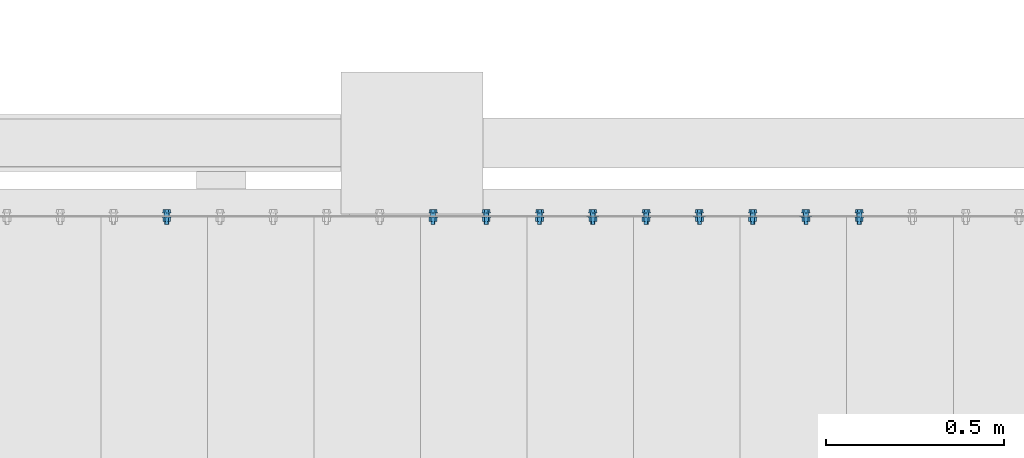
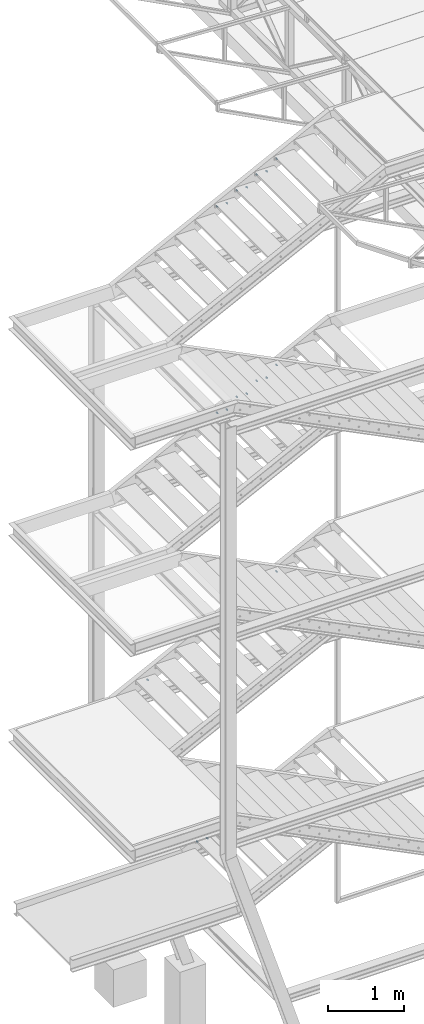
# One storey, part 112 of 132: 18 mechanical fasteners, 11 elements without a shape of their own.
"""IFC2X3 building model written with IfcOpenShell, lengths in millimetres."""

from ifc_helpers import new_model, si_unit, frame, frame_2d, origin_with_axes, origin_2d_with_axis, place, context, subcontext, project, spatial, polyline, circle_curve, parameter, trimmed, segment, composite_curve, circle, outline, extrude, source, transform, mapped, material, type_object, element, aggregate, save


model = new_model("IFC2X3")

# Units and contexts
model_context = context("Model", 3, precision=1e-05, world=origin_with_axes())
body_context = subcontext(model_context, "Body", "Model", "MODEL_VIEW")
ifc_project = project(units=[si_unit("LENGTHUNIT", "METRE", prefix="MILLI"), si_unit("AREAUNIT", "SQUARE_METRE"), si_unit("VOLUMEUNIT", "CUBIC_METRE"), si_unit("MASSUNIT", "GRAM", prefix="KILO"), si_unit("TIMEUNIT", "SECOND"), si_unit("PLANEANGLEUNIT", "RADIAN"), si_unit("SOLIDANGLEUNIT", "STERADIAN"), si_unit("THERMODYNAMICTEMPERATUREUNIT", "DEGREE_CELSIUS"), si_unit("LUMINOUSINTENSITYUNIT", "LUMEN")], contexts=[model_context])

# Site, building, storey
site_placement = place(None, origin_with_axes())
site = spatial("IfcSite", under=ifc_project, at=site_placement, Name="Budowa", CompositionType="ELEMENT")
building_placement = place(site_placement, origin_with_axes())
building = spatial("IfcBuilding", under=site, at=building_placement, Name="Undefined", CompositionType="ELEMENT")
storey_placement = place(building_placement, origin_with_axes())
storey = spatial("IfcBuildingStorey", under=building, at=storey_placement, Name="Undefined", CompositionType="ELEMENT", Elevation=0.0)

# Assembly, mechanical fastener
assembly_1_placement = place(storey_placement, origin_with_axes())
assembly_1 = element("IfcElementAssembly", 1, at=assembly_1_placement, inside=storey, Name="Steel Assembly", AssemblyPlace="NOTDEFINED", PredefinedType="RIGID_FRAME")
ifc_material = material(Name="Undefined")
discrete_accessory_type = type_object("IfcDiscreteAccessoryType", Name="Bolt assembly")
shared_shape_1 = source(origin_with_axes(), body_context, "Body", "SweptSolid", [
    extrude(circle(Radius=7.5, at=origin_2d_with_axis()), frame((0.0, -8.40000000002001, 0.0), z_axis=(0.0, 1.0, 0.0), x_axis=(1.0, 0.0, 0.0)), (0.0, 0.0, 1.0), 8.5),
    extrude(circle(Radius=7.5, at=origin_2d_with_axis()), frame((0.0, -0.1, 0.0), z_axis=(0.0, 1.0, 0.0), x_axis=(1.0, 0.0, 0.0)), (0.0, 0.0, 1.0), 3.1),
    extrude(outline(polyline([(10.39230484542, 0.0), (5.19615242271, 9.00000000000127), (-5.19615242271, 9.00000000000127), (-10.39230484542, 0.0), (-5.19615242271, -9.00000000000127), (5.19615242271, -9.00000000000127), (10.39230484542, 0.0)])), frame((0.0, -18.50000000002, 0.0), z_axis=(0.0, 1.0, 0.0), x_axis=(1.0, 0.0, 0.0)), (0.0, 0.0, 1.0), 7.5),
    extrude(circle(Radius=6.0, at=origin_2d_with_axis()), frame((0.0, -11.00000000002, 0.0), z_axis=(0.0, 1.0, 0.0), x_axis=(1.0, 0.0, 0.0)), (0.0, 0.0, 1.0), 35.0),
    extrude(circle(Radius=12.0, at=origin_2d_with_axis()), frame((0.0, -11.00000000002, 0.0), z_axis=(0.0, 1.0, 0.0), x_axis=(1.0, 0.0, 0.0)), (0.0, 0.0, 1.0), 2.5),
    extrude(circle(Radius=12.0, at=origin_2d_with_axis()), frame((0.0, 3.0, 0.0), z_axis=(0.0, 1.0, 0.0), x_axis=(1.0, 0.0, 0.0)), (0.0, 0.0, 1.0), 2.5),
    extrude(outline(polyline([(10.96965511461, 0.0), (5.484827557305, 9.50000000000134), (-5.484827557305, 9.50000000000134), (-10.96965511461, 0.0), (-5.484827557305, -9.50000000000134), (5.484827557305, -9.50000000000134), (10.96965511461, 0.0)])), frame((0.0, 5.5, 0.0), z_axis=(0.0, 1.0, 0.0), x_axis=(1.0, 0.0, 0.0)), (0.0, 0.0, 1.0), 10.0),
])
mechanical_fastener_1_placement = place(assembly_1_placement, frame((-1720.0000000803, 10925.0000000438, 13549.9999999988), z_axis=(0.0, 0.0, -1.0), x_axis=(1.0, 0.0, 0.0)))
mechanical_fastener_1 = element("IfcMechanicalFastener", 2, at=mechanical_fastener_1_placement, type_object=discrete_accessory_type, material=ifc_material, Name="Bolt assembly", NominalDiameter=12.0, NominalLength=35.0, context=body_context, shape_type="MappedRepresentation", body=[
    mapped(shared_shape_1, transform((35.0, 0.0, 25.0))),
])
aggregate(assembly_1, [mechanical_fastener_1])

assembly_2_placement = place(storey_placement, origin_with_axes())
assembly_2 = element("IfcElementAssembly", 3, at=assembly_2_placement, inside=storey, Name="Steel Assembly", AssemblyPlace="NOTDEFINED", PredefinedType="RIGID_FRAME")
mechanical_fastener_2_placement = place(assembly_2_placement, frame((-2020.00000008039, 10925.0000000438, 13399.9999999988), z_axis=(0.0, 0.0, -1.0), x_axis=(1.0, 0.0, 0.0)))
mechanical_fastener_2 = element("IfcMechanicalFastener", 4, at=mechanical_fastener_2_placement, type_object=discrete_accessory_type, material=ifc_material, Name="Bolt assembly", NominalDiameter=12.0, NominalLength=35.0, context=body_context, shape_type="MappedRepresentation", body=[
    mapped(shared_shape_1, transform((35.0, 0.0, 25.0))),
])

assembly_3_placement = place(storey_placement, origin_with_axes())
assembly_3 = element("IfcElementAssembly", 5, at=assembly_3_placement, inside=storey, Name="Steel Assembly", AssemblyPlace="NOTDEFINED", PredefinedType="RIGID_FRAME")
mechanical_fastener_3_placement = place(assembly_3_placement, frame((-2320.00000008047, 10925.0000000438, 13249.9999999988), z_axis=(0.0, 0.0, -1.0), x_axis=(1.0, 0.0, 0.0)))
mechanical_fastener_3 = element("IfcMechanicalFastener", 6, at=mechanical_fastener_3_placement, type_object=discrete_accessory_type, material=ifc_material, Name="Bolt assembly", NominalDiameter=12.0, NominalLength=35.0, context=body_context, shape_type="MappedRepresentation", body=[
    mapped(shared_shape_1, transform((35.0, 0.0, 25.0))),
])

assembly_4_placement = place(storey_placement, origin_with_axes())
assembly_4 = element("IfcElementAssembly", 7, at=assembly_4_placement, inside=storey, Name="Steel Assembly", AssemblyPlace="NOTDEFINED", PredefinedType="RIGID_FRAME")
mechanical_fastener_4_placement = place(assembly_4_placement, frame((-2620.00000008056, 10925.0000000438, 13099.9999999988), z_axis=(0.0, 0.0, -1.0), x_axis=(1.0, 0.0, 0.0)))
mechanical_fastener_4 = element("IfcMechanicalFastener", 8, at=mechanical_fastener_4_placement, type_object=discrete_accessory_type, material=ifc_material, Name="Bolt assembly", NominalDiameter=12.0, NominalLength=35.0, context=body_context, shape_type="MappedRepresentation", body=[
    mapped(shared_shape_1, transform((35.0, 0.0, 25.0))),
])

assembly_5_placement = place(storey_placement, origin_with_axes())
assembly_5 = element("IfcElementAssembly", 9, at=assembly_5_placement, inside=storey, Name="Steel Assembly", AssemblyPlace="NOTDEFINED", PredefinedType="RIGID_FRAME")
mechanical_fastener_5_placement = place(assembly_5_placement, frame((-1720.0000000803, 10925.0000000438, 10249.9999999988), z_axis=(0.0, 0.0, -1.0), x_axis=(1.0, 0.0, 0.0)))
mechanical_fastener_5 = element("IfcMechanicalFastener", 10, at=mechanical_fastener_5_placement, type_object=discrete_accessory_type, material=ifc_material, Name="Bolt assembly", NominalDiameter=12.0, NominalLength=35.0, context=body_context, shape_type="MappedRepresentation", body=[
    mapped(shared_shape_1, transform((35.0, 0.0, 25.0))),
])
aggregate(assembly_5, [mechanical_fastener_5])

assembly_6_placement = place(storey_placement, origin_with_axes())
assembly_6 = element("IfcElementAssembly", 11, at=assembly_6_placement, inside=storey, Name="Steel Assembly", AssemblyPlace="NOTDEFINED", PredefinedType="RIGID_FRAME")
mechanical_fastener_6_placement = place(assembly_6_placement, frame((-2020.00000008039, 10925.0000000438, 10099.9999999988), z_axis=(0.0, 0.0, -1.0), x_axis=(1.0, 0.0, 0.0)))
mechanical_fastener_6 = element("IfcMechanicalFastener", 12, at=mechanical_fastener_6_placement, type_object=discrete_accessory_type, material=ifc_material, Name="Bolt assembly", NominalDiameter=12.0, NominalLength=35.0, context=body_context, shape_type="MappedRepresentation", body=[
    mapped(shared_shape_1, transform((35.0, 0.0, 25.0))),
])

assembly_7_placement = place(storey_placement, origin_with_axes())
assembly_7 = element("IfcElementAssembly", 13, at=assembly_7_placement, inside=storey, Name="Steel Assembly", AssemblyPlace="NOTDEFINED", PredefinedType="RIGID_FRAME")
mechanical_fastener_7_placement = place(assembly_7_placement, frame((-2320.00000008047, 10925.0000000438, 9949.99999999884), z_axis=(0.0, 0.0, -1.0), x_axis=(1.0, 0.0, 0.0)))
mechanical_fastener_7 = element("IfcMechanicalFastener", 14, at=mechanical_fastener_7_placement, type_object=discrete_accessory_type, material=ifc_material, Name="Bolt assembly", NominalDiameter=12.0, NominalLength=35.0, context=body_context, shape_type="MappedRepresentation", body=[
    mapped(shared_shape_1, transform((35.0, 0.0, 25.0))),
])

assembly_8_placement = place(storey_placement, origin_with_axes())
assembly_8 = element("IfcElementAssembly", 15, at=assembly_8_placement, inside=storey, Name="Steel Assembly", AssemblyPlace="NOTDEFINED", PredefinedType="RIGID_FRAME")
mechanical_fastener_8_placement = place(assembly_8_placement, frame((-2620.00000008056, 10925.0000000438, 9799.99999999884), z_axis=(0.0, 0.0, -1.0), x_axis=(1.0, 0.0, 0.0)))
mechanical_fastener_8 = element("IfcMechanicalFastener", 16, at=mechanical_fastener_8_placement, type_object=discrete_accessory_type, material=ifc_material, Name="Bolt assembly", NominalDiameter=12.0, NominalLength=35.0, context=body_context, shape_type="MappedRepresentation", body=[
    mapped(shared_shape_1, transform((35.0, 0.0, 25.0))),
])

assembly_9_placement = place(storey_placement, origin_with_axes())
assembly_9 = element("IfcElementAssembly", 17, at=assembly_9_placement, inside=storey, Name="Steel Assembly", AssemblyPlace="NOTDEFINED", PredefinedType="RIGID_FRAME")
mechanical_fastener_9_placement = place(assembly_9_placement, frame((-1720.00000008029, 10925.0000000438, 6949.99999999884), z_axis=(0.0, 0.0, -1.0), x_axis=(1.0, 0.0, 0.0)))
mechanical_fastener_9 = element("IfcMechanicalFastener", 18, at=mechanical_fastener_9_placement, type_object=discrete_accessory_type, material=ifc_material, Name="Bolt assembly", NominalDiameter=12.0, NominalLength=35.0, context=body_context, shape_type="MappedRepresentation", body=[
    mapped(shared_shape_1, transform((35.0, 0.0, 25.0))),
])
aggregate(assembly_9, [mechanical_fastener_9])

assembly_10_placement = place(storey_placement, origin_with_axes())
assembly_10 = element("IfcElementAssembly", 19, at=assembly_10_placement, inside=storey, Name="Steel Assembly", AssemblyPlace="NOTDEFINED", PredefinedType="RIGID_FRAME")
mechanical_fastener_10_placement = place(assembly_10_placement, frame((-2920.00000008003, 10925.000000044, 3049.99999999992), z_axis=(0.0, 0.0, -1.0), x_axis=(1.0, 0.0, 0.0)))
mechanical_fastener_10 = element("IfcMechanicalFastener", 20, at=mechanical_fastener_10_placement, type_object=discrete_accessory_type, material=ifc_material, Name="Bolt assembly", NominalDiameter=12.0, NominalLength=35.0, context=body_context, shape_type="MappedRepresentation", body=[
    mapped(shared_shape_1, transform((35.0, 0.0, 25.0))),
])

# Mechanical fastener
shared_shape_2 = source(origin_with_axes(), body_context, "Body", "SweptSolid", [
    extrude(circle(Radius=7.5, at=origin_2d_with_axis()), frame((0.0, -8.40000000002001, 0.0), z_axis=(0.0, 1.0, 0.0), x_axis=(1.0, 0.0, 0.0)), (0.0, 0.0, 1.0), 8.5),
    extrude(outline(composite_curve([segment(polyline([(-10.0, 7.5), (10.0, 7.5)]), True, "CONTINUOUS"), segment(trimmed(circle_curve(frame_2d((10.0, 0.0), x_axis=(0.0, 1.0)), 7.5), [parameter(0.0)], [parameter(3.14159265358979)], False, "PARAMETER"), True, "CONTINUOUS"), segment(polyline([(10.0, -7.5), (-10.0, -7.5)]), True, "CONTINUOUS"), segment(trimmed(circle_curve(frame_2d((-10.0, 0.0), x_axis=(0.0, -1.0)), 7.5), [parameter(0.0)], [parameter(3.14159265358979)], False, "PARAMETER"), True, "DISCONTINUOUS")], self_intersect=False)), frame((0.0, -0.1, 0.0), z_axis=(0.0, 1.0, 0.0), x_axis=(1.0, 0.0, 0.0)), (0.0, 0.0, 1.0), 3.1),
    extrude(outline(polyline([(10.39230484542, 0.0), (5.19615242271, 9.00000000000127), (-5.19615242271, 9.00000000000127), (-10.39230484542, 0.0), (-5.19615242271, -9.00000000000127), (5.19615242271, -9.00000000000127), (10.39230484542, 0.0)])), frame((0.0, -18.50000000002, 0.0), z_axis=(0.0, 1.0, 0.0), x_axis=(1.0, 0.0, 0.0)), (0.0, 0.0, 1.0), 7.5),
    extrude(circle(Radius=6.0, at=origin_2d_with_axis()), frame((0.0, -11.00000000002, 0.0), z_axis=(0.0, 1.0, 0.0), x_axis=(1.0, 0.0, 0.0)), (0.0, 0.0, 1.0), 35.0),
    extrude(circle(Radius=12.0, at=origin_2d_with_axis()), frame((0.0, -11.00000000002, 0.0), z_axis=(0.0, 1.0, 0.0), x_axis=(1.0, 0.0, 0.0)), (0.0, 0.0, 1.0), 2.5),
    extrude(circle(Radius=12.0, at=origin_2d_with_axis()), frame((0.0, 3.0, 0.0), z_axis=(0.0, 1.0, 0.0), x_axis=(1.0, 0.0, 0.0)), (0.0, 0.0, 1.0), 2.5),
    extrude(outline(polyline([(10.96965511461, 0.0), (5.484827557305, 9.50000000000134), (-5.484827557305, 9.50000000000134), (-10.96965511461, 0.0), (-5.484827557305, -9.50000000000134), (5.484827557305, -9.50000000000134), (10.96965511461, 0.0)])), frame((0.0, 5.5, 0.0), z_axis=(0.0, 1.0, 0.0), x_axis=(1.0, 0.0, 0.0)), (0.0, 0.0, 1.0), 10.0),
])
mechanical_fastener_11_placement = place(assembly_2_placement, frame((-2020.00000008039, 10925.0000000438, 13399.9999999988), z_axis=(0.0, 0.0, -1.0), x_axis=(1.0, 0.0, 0.0)))
mechanical_fastener_11 = element("IfcMechanicalFastener", 21, at=mechanical_fastener_11_placement, type_object=discrete_accessory_type, material=ifc_material, Name="Bolt assembly", NominalDiameter=12.0, NominalLength=35.0, context=body_context, shape_type="MappedRepresentation", body=[
    mapped(shared_shape_2, transform((185.0, 0.0, 25.0))),
])

aggregate(assembly_2, [mechanical_fastener_11, mechanical_fastener_2])

shared_shape_3 = source(origin_with_axes(), body_context, "Body", "SweptSolid", [
    extrude(circle(Radius=7.5, at=origin_2d_with_axis()), frame((0.0, -8.40000000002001, 0.0), z_axis=(0.0, 1.0, 0.0), x_axis=(1.0, 0.0, 0.0)), (0.0, 0.0, 1.0), 8.5),
    extrude(outline(composite_curve([segment(polyline([(-10.0, 7.5), (10.0, 7.5)]), True, "CONTINUOUS"), segment(trimmed(circle_curve(frame_2d((10.0, 0.0), x_axis=(0.0, 1.0)), 7.5), [parameter(0.0)], [parameter(3.14159265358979)], False, "PARAMETER"), True, "CONTINUOUS"), segment(polyline([(10.0, -7.5), (-10.0, -7.5)]), True, "CONTINUOUS"), segment(trimmed(circle_curve(frame_2d((-10.0, 0.0), x_axis=(0.0, -1.0)), 7.5), [parameter(0.0)], [parameter(3.14159265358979)], False, "PARAMETER"), True, "DISCONTINUOUS")], self_intersect=False)), frame((0.0, -0.1, 0.0), z_axis=(0.0, 1.0, 0.0), x_axis=(1.0, 0.0, 0.0)), (0.0, 0.0, 1.0), 3.1),
    extrude(outline(polyline([(10.39230484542, 0.0), (5.19615242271, 9.00000000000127), (-5.19615242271, 9.00000000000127), (-10.39230484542, 0.0), (-5.19615242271, -9.00000000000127), (5.19615242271, -9.00000000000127), (10.39230484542, 0.0)])), frame((0.0, -18.50000000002, 0.0), z_axis=(0.0, 1.0, 0.0), x_axis=(1.0, 0.0, 0.0)), (0.0, 0.0, 1.0), 7.5),
    extrude(circle(Radius=6.0, at=origin_2d_with_axis()), frame((0.0, -11.00000000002, 0.0), z_axis=(0.0, 1.0, 0.0), x_axis=(1.0, 0.0, 0.0)), (0.0, 0.0, 1.0), 35.0),
    extrude(circle(Radius=12.0, at=origin_2d_with_axis()), frame((0.0, -11.00000000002, 0.0), z_axis=(0.0, 1.0, 0.0), x_axis=(1.0, 0.0, 0.0)), (0.0, 0.0, 1.0), 2.5),
    extrude(circle(Radius=12.0, at=origin_2d_with_axis()), frame((0.0, 3.0, 0.0), z_axis=(0.0, 1.0, 0.0), x_axis=(1.0, 0.0, 0.0)), (0.0, 0.0, 1.0), 2.5),
    extrude(outline(polyline([(10.96965511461, 0.0), (5.484827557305, 9.50000000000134), (-5.484827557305, 9.50000000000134), (-10.96965511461, 0.0), (-5.484827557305, -9.50000000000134), (5.484827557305, -9.50000000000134), (10.96965511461, 0.0)])), frame((0.0, 5.5, 0.0), z_axis=(0.0, 1.0, 0.0), x_axis=(1.0, 0.0, 0.0)), (0.0, 0.0, 1.0), 10.0),
])
mechanical_fastener_12_placement = place(assembly_3_placement, frame((-2320.00000008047, 10925.0000000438, 13249.9999999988), z_axis=(0.0, 0.0, -1.0), x_axis=(1.0, 0.0, 0.0)))
mechanical_fastener_12 = element("IfcMechanicalFastener", 22, at=mechanical_fastener_12_placement, type_object=discrete_accessory_type, material=ifc_material, Name="Bolt assembly", NominalDiameter=12.0, NominalLength=35.0, context=body_context, shape_type="MappedRepresentation", body=[
    mapped(shared_shape_3, transform((185.0, 0.0, 25.0))),
])

aggregate(assembly_3, [mechanical_fastener_12, mechanical_fastener_3])

shared_shape_4 = source(origin_with_axes(), body_context, "Body", "SweptSolid", [
    extrude(circle(Radius=7.5, at=origin_2d_with_axis()), frame((0.0, -8.40000000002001, 0.0), z_axis=(0.0, 1.0, 0.0), x_axis=(1.0, 0.0, 0.0)), (0.0, 0.0, 1.0), 8.5),
    extrude(outline(composite_curve([segment(polyline([(-10.0, 7.5), (10.0, 7.5)]), True, "CONTINUOUS"), segment(trimmed(circle_curve(frame_2d((10.0, 0.0), x_axis=(0.0, 1.0)), 7.5), [parameter(0.0)], [parameter(3.14159265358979)], False, "PARAMETER"), True, "CONTINUOUS"), segment(polyline([(10.0, -7.5), (-10.0, -7.5)]), True, "CONTINUOUS"), segment(trimmed(circle_curve(frame_2d((-10.0, 0.0), x_axis=(0.0, -1.0)), 7.5), [parameter(0.0)], [parameter(3.14159265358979)], False, "PARAMETER"), True, "DISCONTINUOUS")], self_intersect=False)), frame((0.0, -0.1, 0.0), z_axis=(0.0, 1.0, 0.0), x_axis=(1.0, 0.0, 0.0)), (0.0, 0.0, 1.0), 3.1),
    extrude(outline(polyline([(10.39230484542, 0.0), (5.19615242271, 9.00000000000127), (-5.19615242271, 9.00000000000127), (-10.39230484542, 0.0), (-5.19615242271, -9.00000000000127), (5.19615242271, -9.00000000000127), (10.39230484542, 0.0)])), frame((0.0, -18.50000000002, 0.0), z_axis=(0.0, 1.0, 0.0), x_axis=(1.0, 0.0, 0.0)), (0.0, 0.0, 1.0), 7.5),
    extrude(circle(Radius=6.0, at=origin_2d_with_axis()), frame((0.0, -11.00000000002, 0.0), z_axis=(0.0, 1.0, 0.0), x_axis=(1.0, 0.0, 0.0)), (0.0, 0.0, 1.0), 35.0),
    extrude(circle(Radius=12.0, at=origin_2d_with_axis()), frame((0.0, -11.00000000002, 0.0), z_axis=(0.0, 1.0, 0.0), x_axis=(1.0, 0.0, 0.0)), (0.0, 0.0, 1.0), 2.5),
    extrude(circle(Radius=12.0, at=origin_2d_with_axis()), frame((0.0, 3.0, 0.0), z_axis=(0.0, 1.0, 0.0), x_axis=(1.0, 0.0, 0.0)), (0.0, 0.0, 1.0), 2.5),
    extrude(outline(polyline([(10.96965511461, 0.0), (5.484827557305, 9.50000000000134), (-5.484827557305, 9.50000000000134), (-10.96965511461, 0.0), (-5.484827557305, -9.50000000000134), (5.484827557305, -9.50000000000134), (10.96965511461, 0.0)])), frame((0.0, 5.5, 0.0), z_axis=(0.0, 1.0, 0.0), x_axis=(1.0, 0.0, 0.0)), (0.0, 0.0, 1.0), 10.0),
])
mechanical_fastener_13_placement = place(assembly_4_placement, frame((-2620.00000008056, 10925.0000000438, 13099.9999999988), z_axis=(0.0, 0.0, -1.0), x_axis=(1.0, 0.0, 0.0)))
mechanical_fastener_13 = element("IfcMechanicalFastener", 23, at=mechanical_fastener_13_placement, type_object=discrete_accessory_type, material=ifc_material, Name="Bolt assembly", NominalDiameter=12.0, NominalLength=35.0, context=body_context, shape_type="MappedRepresentation", body=[
    mapped(shared_shape_4, transform((185.0, 0.0, 25.0))),
])

aggregate(assembly_4, [mechanical_fastener_13, mechanical_fastener_4])

shared_shape_5 = source(origin_with_axes(), body_context, "Body", "SweptSolid", [
    extrude(circle(Radius=7.5, at=origin_2d_with_axis()), frame((0.0, -8.40000000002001, 0.0), z_axis=(0.0, 1.0, 0.0), x_axis=(1.0, 0.0, 0.0)), (0.0, 0.0, 1.0), 8.5),
    extrude(outline(composite_curve([segment(polyline([(-10.0, 7.5), (10.0, 7.5)]), True, "CONTINUOUS"), segment(trimmed(circle_curve(frame_2d((10.0, 0.0), x_axis=(0.0, 1.0)), 7.5), [parameter(0.0)], [parameter(3.14159265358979)], False, "PARAMETER"), True, "CONTINUOUS"), segment(polyline([(10.0, -7.5), (-10.0, -7.5)]), True, "CONTINUOUS"), segment(trimmed(circle_curve(frame_2d((-10.0, 0.0), x_axis=(0.0, -1.0)), 7.5), [parameter(0.0)], [parameter(3.14159265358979)], False, "PARAMETER"), True, "DISCONTINUOUS")], self_intersect=False)), frame((0.0, -0.1, 0.0), z_axis=(0.0, 1.0, 0.0), x_axis=(1.0, 0.0, 0.0)), (0.0, 0.0, 1.0), 3.1),
    extrude(outline(polyline([(10.39230484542, 0.0), (5.19615242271, 9.00000000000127), (-5.19615242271, 9.00000000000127), (-10.39230484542, 0.0), (-5.19615242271, -9.00000000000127), (5.19615242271, -9.00000000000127), (10.39230484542, 0.0)])), frame((0.0, -18.50000000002, 0.0), z_axis=(0.0, 1.0, 0.0), x_axis=(1.0, 0.0, 0.0)), (0.0, 0.0, 1.0), 7.5),
    extrude(circle(Radius=6.0, at=origin_2d_with_axis()), frame((0.0, -11.00000000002, 0.0), z_axis=(0.0, 1.0, 0.0), x_axis=(1.0, 0.0, 0.0)), (0.0, 0.0, 1.0), 35.0),
    extrude(circle(Radius=12.0, at=origin_2d_with_axis()), frame((0.0, -11.00000000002, 0.0), z_axis=(0.0, 1.0, 0.0), x_axis=(1.0, 0.0, 0.0)), (0.0, 0.0, 1.0), 2.5),
    extrude(circle(Radius=12.0, at=origin_2d_with_axis()), frame((0.0, 3.0, 0.0), z_axis=(0.0, 1.0, 0.0), x_axis=(1.0, 0.0, 0.0)), (0.0, 0.0, 1.0), 2.5),
    extrude(outline(polyline([(10.96965511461, 0.0), (5.484827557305, 9.50000000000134), (-5.484827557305, 9.50000000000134), (-10.96965511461, 0.0), (-5.484827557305, -9.50000000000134), (5.484827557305, -9.50000000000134), (10.96965511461, 0.0)])), frame((0.0, 5.5, 0.0), z_axis=(0.0, 1.0, 0.0), x_axis=(1.0, 0.0, 0.0)), (0.0, 0.0, 1.0), 10.0),
])
mechanical_fastener_14_placement = place(assembly_6_placement, frame((-2020.00000008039, 10925.0000000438, 10099.9999999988), z_axis=(0.0, 0.0, -1.0), x_axis=(1.0, 0.0, 0.0)))
mechanical_fastener_14 = element("IfcMechanicalFastener", 24, at=mechanical_fastener_14_placement, type_object=discrete_accessory_type, material=ifc_material, Name="Bolt assembly", NominalDiameter=12.0, NominalLength=35.0, context=body_context, shape_type="MappedRepresentation", body=[
    mapped(shared_shape_5, transform((185.0, 0.0, 25.0))),
])

aggregate(assembly_6, [mechanical_fastener_14, mechanical_fastener_6])

shared_shape_6 = source(origin_with_axes(), body_context, "Body", "SweptSolid", [
    extrude(circle(Radius=7.5, at=origin_2d_with_axis()), frame((0.0, -8.40000000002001, 0.0), z_axis=(0.0, 1.0, 0.0), x_axis=(1.0, 0.0, 0.0)), (0.0, 0.0, 1.0), 8.5),
    extrude(outline(composite_curve([segment(polyline([(-10.0, 7.5), (10.0, 7.5)]), True, "CONTINUOUS"), segment(trimmed(circle_curve(frame_2d((10.0, 0.0), x_axis=(0.0, 1.0)), 7.5), [parameter(0.0)], [parameter(3.14159265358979)], False, "PARAMETER"), True, "CONTINUOUS"), segment(polyline([(10.0, -7.5), (-10.0, -7.5)]), True, "CONTINUOUS"), segment(trimmed(circle_curve(frame_2d((-10.0, 0.0), x_axis=(0.0, -1.0)), 7.5), [parameter(0.0)], [parameter(3.14159265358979)], False, "PARAMETER"), True, "DISCONTINUOUS")], self_intersect=False)), frame((0.0, -0.1, 0.0), z_axis=(0.0, 1.0, 0.0), x_axis=(1.0, 0.0, 0.0)), (0.0, 0.0, 1.0), 3.1),
    extrude(outline(polyline([(10.39230484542, 0.0), (5.19615242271, 9.00000000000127), (-5.19615242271, 9.00000000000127), (-10.39230484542, 0.0), (-5.19615242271, -9.00000000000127), (5.19615242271, -9.00000000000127), (10.39230484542, 0.0)])), frame((0.0, -18.50000000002, 0.0), z_axis=(0.0, 1.0, 0.0), x_axis=(1.0, 0.0, 0.0)), (0.0, 0.0, 1.0), 7.5),
    extrude(circle(Radius=6.0, at=origin_2d_with_axis()), frame((0.0, -11.00000000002, 0.0), z_axis=(0.0, 1.0, 0.0), x_axis=(1.0, 0.0, 0.0)), (0.0, 0.0, 1.0), 35.0),
    extrude(circle(Radius=12.0, at=origin_2d_with_axis()), frame((0.0, -11.00000000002, 0.0), z_axis=(0.0, 1.0, 0.0), x_axis=(1.0, 0.0, 0.0)), (0.0, 0.0, 1.0), 2.5),
    extrude(circle(Radius=12.0, at=origin_2d_with_axis()), frame((0.0, 3.0, 0.0), z_axis=(0.0, 1.0, 0.0), x_axis=(1.0, 0.0, 0.0)), (0.0, 0.0, 1.0), 2.5),
    extrude(outline(polyline([(10.96965511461, 0.0), (5.484827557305, 9.50000000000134), (-5.484827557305, 9.50000000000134), (-10.96965511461, 0.0), (-5.484827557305, -9.50000000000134), (5.484827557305, -9.50000000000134), (10.96965511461, 0.0)])), frame((0.0, 5.5, 0.0), z_axis=(0.0, 1.0, 0.0), x_axis=(1.0, 0.0, 0.0)), (0.0, 0.0, 1.0), 10.0),
])
mechanical_fastener_15_placement = place(assembly_7_placement, frame((-2320.00000008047, 10925.0000000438, 9949.99999999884), z_axis=(0.0, 0.0, -1.0), x_axis=(1.0, 0.0, 0.0)))
mechanical_fastener_15 = element("IfcMechanicalFastener", 25, at=mechanical_fastener_15_placement, type_object=discrete_accessory_type, material=ifc_material, Name="Bolt assembly", NominalDiameter=12.0, NominalLength=35.0, context=body_context, shape_type="MappedRepresentation", body=[
    mapped(shared_shape_6, transform((185.0, 0.0, 25.0))),
])

aggregate(assembly_7, [mechanical_fastener_15, mechanical_fastener_7])

shared_shape_7 = source(origin_with_axes(), body_context, "Body", "SweptSolid", [
    extrude(circle(Radius=7.5, at=origin_2d_with_axis()), frame((0.0, -8.40000000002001, 0.0), z_axis=(0.0, 1.0, 0.0), x_axis=(1.0, 0.0, 0.0)), (0.0, 0.0, 1.0), 8.5),
    extrude(outline(composite_curve([segment(polyline([(-10.0, 7.5), (10.0, 7.5)]), True, "CONTINUOUS"), segment(trimmed(circle_curve(frame_2d((10.0, 0.0), x_axis=(0.0, 1.0)), 7.5), [parameter(0.0)], [parameter(3.14159265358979)], False, "PARAMETER"), True, "CONTINUOUS"), segment(polyline([(10.0, -7.5), (-10.0, -7.5)]), True, "CONTINUOUS"), segment(trimmed(circle_curve(frame_2d((-10.0, 0.0), x_axis=(0.0, -1.0)), 7.5), [parameter(0.0)], [parameter(3.14159265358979)], False, "PARAMETER"), True, "DISCONTINUOUS")], self_intersect=False)), frame((0.0, -0.1, 0.0), z_axis=(0.0, 1.0, 0.0), x_axis=(1.0, 0.0, 0.0)), (0.0, 0.0, 1.0), 3.1),
    extrude(outline(polyline([(10.39230484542, 0.0), (5.19615242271, 9.00000000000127), (-5.19615242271, 9.00000000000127), (-10.39230484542, 0.0), (-5.19615242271, -9.00000000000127), (5.19615242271, -9.00000000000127), (10.39230484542, 0.0)])), frame((0.0, -18.50000000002, 0.0), z_axis=(0.0, 1.0, 0.0), x_axis=(1.0, 0.0, 0.0)), (0.0, 0.0, 1.0), 7.5),
    extrude(circle(Radius=6.0, at=origin_2d_with_axis()), frame((0.0, -11.00000000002, 0.0), z_axis=(0.0, 1.0, 0.0), x_axis=(1.0, 0.0, 0.0)), (0.0, 0.0, 1.0), 35.0),
    extrude(circle(Radius=12.0, at=origin_2d_with_axis()), frame((0.0, -11.00000000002, 0.0), z_axis=(0.0, 1.0, 0.0), x_axis=(1.0, 0.0, 0.0)), (0.0, 0.0, 1.0), 2.5),
    extrude(circle(Radius=12.0, at=origin_2d_with_axis()), frame((0.0, 3.0, 0.0), z_axis=(0.0, 1.0, 0.0), x_axis=(1.0, 0.0, 0.0)), (0.0, 0.0, 1.0), 2.5),
    extrude(outline(polyline([(10.96965511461, 0.0), (5.484827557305, 9.50000000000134), (-5.484827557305, 9.50000000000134), (-10.96965511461, 0.0), (-5.484827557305, -9.50000000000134), (5.484827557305, -9.50000000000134), (10.96965511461, 0.0)])), frame((0.0, 5.5, 0.0), z_axis=(0.0, 1.0, 0.0), x_axis=(1.0, 0.0, 0.0)), (0.0, 0.0, 1.0), 10.0),
])
mechanical_fastener_16_placement = place(assembly_8_placement, frame((-2620.00000008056, 10925.0000000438, 9799.99999999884), z_axis=(0.0, 0.0, -1.0), x_axis=(1.0, 0.0, 0.0)))
mechanical_fastener_16 = element("IfcMechanicalFastener", 26, at=mechanical_fastener_16_placement, type_object=discrete_accessory_type, material=ifc_material, Name="Bolt assembly", NominalDiameter=12.0, NominalLength=35.0, context=body_context, shape_type="MappedRepresentation", body=[
    mapped(shared_shape_7, transform((185.0, 0.0, 25.0))),
])

aggregate(assembly_8, [mechanical_fastener_16, mechanical_fastener_8])

# Assembly, mechanical fastener
assembly_11_placement = place(storey_placement, origin_with_axes())
assembly_11 = element("IfcElementAssembly", 27, at=assembly_11_placement, inside=storey, Name="Steel Assembly", AssemblyPlace="NOTDEFINED", PredefinedType="RIGID_FRAME")
shared_shape_8 = source(origin_with_axes(), body_context, "Body", "SweptSolid", [
    extrude(circle(Radius=7.5, at=origin_2d_with_axis()), frame((0.0, -8.40000000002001, 0.0), z_axis=(0.0, 1.0, 0.0), x_axis=(1.0, 0.0, 0.0)), (0.0, 0.0, 1.0), 8.5),
    extrude(outline(composite_curve([segment(polyline([(-10.0, 7.5), (10.0, 7.5)]), True, "CONTINUOUS"), segment(trimmed(circle_curve(frame_2d((10.0, 0.0), x_axis=(0.0, 1.0)), 7.5), [parameter(0.0)], [parameter(3.14159265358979)], False, "PARAMETER"), True, "CONTINUOUS"), segment(polyline([(10.0, -7.5), (-10.0, -7.5)]), True, "CONTINUOUS"), segment(trimmed(circle_curve(frame_2d((-10.0, 0.0), x_axis=(0.0, -1.0)), 7.5), [parameter(0.0)], [parameter(3.14159265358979)], False, "PARAMETER"), True, "DISCONTINUOUS")], self_intersect=False)), frame((0.0, -0.1, 0.0), z_axis=(0.0, 1.0, 0.0), x_axis=(1.0, 0.0, 0.0)), (0.0, 0.0, 1.0), 3.1),
    extrude(outline(polyline([(10.39230484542, 0.0), (5.19615242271, 9.00000000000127), (-5.19615242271, 9.00000000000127), (-10.39230484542, 0.0), (-5.19615242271, -9.00000000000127), (5.19615242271, -9.00000000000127), (10.39230484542, 0.0)])), frame((0.0, -18.50000000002, 0.0), z_axis=(0.0, 1.0, 0.0), x_axis=(1.0, 0.0, 0.0)), (0.0, 0.0, 1.0), 7.5),
    extrude(circle(Radius=6.0, at=origin_2d_with_axis()), frame((0.0, -11.00000000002, 0.0), z_axis=(0.0, 1.0, 0.0), x_axis=(1.0, 0.0, 0.0)), (0.0, 0.0, 1.0), 35.0),
    extrude(circle(Radius=12.0, at=origin_2d_with_axis()), frame((0.0, -11.00000000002, 0.0), z_axis=(0.0, 1.0, 0.0), x_axis=(1.0, 0.0, 0.0)), (0.0, 0.0, 1.0), 2.5),
    extrude(circle(Radius=12.0, at=origin_2d_with_axis()), frame((0.0, 3.0, 0.0), z_axis=(0.0, 1.0, 0.0), x_axis=(1.0, 0.0, 0.0)), (0.0, 0.0, 1.0), 2.5),
    extrude(outline(polyline([(10.96965511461, 0.0), (5.484827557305, 9.50000000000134), (-5.484827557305, 9.50000000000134), (-10.96965511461, 0.0), (-5.484827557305, -9.50000000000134), (5.484827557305, -9.50000000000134), (10.96965511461, 0.0)])), frame((0.0, 5.5, 0.0), z_axis=(0.0, 1.0, 0.0), x_axis=(1.0, 0.0, 0.0)), (0.0, 0.0, 1.0), 10.0),
])
mechanical_fastener_17_placement = place(assembly_11_placement, frame((-3820.00000008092, 10925.0000000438, 5899.99999999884), z_axis=(0.0, 0.0, -1.0), x_axis=(1.0, 0.0, 0.0)))
mechanical_fastener_17 = element("IfcMechanicalFastener", 28, at=mechanical_fastener_17_placement, type_object=discrete_accessory_type, material=ifc_material, Name="Bolt assembly", NominalDiameter=12.0, NominalLength=35.0, context=body_context, shape_type="MappedRepresentation", body=[
    mapped(shared_shape_8, transform((185.0, 0.0, 25.0))),
])
aggregate(assembly_11, [mechanical_fastener_17])

# Mechanical fastener
shared_shape_9 = source(origin_with_axes(), body_context, "Body", "SweptSolid", [
    extrude(circle(Radius=7.5, at=origin_2d_with_axis()), frame((0.0, -8.40000000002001, 0.0), z_axis=(0.0, 1.0, 0.0), x_axis=(1.0, 0.0, 0.0)), (0.0, 0.0, 1.0), 8.5),
    extrude(outline(composite_curve([segment(polyline([(-10.0, 7.5), (10.0, 7.5)]), True, "CONTINUOUS"), segment(trimmed(circle_curve(frame_2d((10.0, 0.0), x_axis=(0.0, 1.0)), 7.5), [parameter(0.0)], [parameter(3.14159265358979)], False, "PARAMETER"), True, "CONTINUOUS"), segment(polyline([(10.0, -7.5), (-10.0, -7.5)]), True, "CONTINUOUS"), segment(trimmed(circle_curve(frame_2d((-10.0, 0.0), x_axis=(0.0, -1.0)), 7.5), [parameter(0.0)], [parameter(3.14159265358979)], False, "PARAMETER"), True, "DISCONTINUOUS")], self_intersect=False)), frame((0.0, -0.1, 0.0), z_axis=(0.0, 1.0, 0.0), x_axis=(1.0, 0.0, 0.0)), (0.0, 0.0, 1.0), 3.1),
    extrude(outline(polyline([(10.39230484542, 0.0), (5.19615242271, 9.00000000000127), (-5.19615242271, 9.00000000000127), (-10.39230484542, 0.0), (-5.19615242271, -9.00000000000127), (5.19615242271, -9.00000000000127), (10.39230484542, 0.0)])), frame((0.0, -18.50000000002, 0.0), z_axis=(0.0, 1.0, 0.0), x_axis=(1.0, 0.0, 0.0)), (0.0, 0.0, 1.0), 7.5),
    extrude(circle(Radius=6.0, at=origin_2d_with_axis()), frame((0.0, -11.00000000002, 0.0), z_axis=(0.0, 1.0, 0.0), x_axis=(1.0, 0.0, 0.0)), (0.0, 0.0, 1.0), 35.0),
    extrude(circle(Radius=12.0, at=origin_2d_with_axis()), frame((0.0, -11.00000000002, 0.0), z_axis=(0.0, 1.0, 0.0), x_axis=(1.0, 0.0, 0.0)), (0.0, 0.0, 1.0), 2.5),
    extrude(circle(Radius=12.0, at=origin_2d_with_axis()), frame((0.0, 3.0, 0.0), z_axis=(0.0, 1.0, 0.0), x_axis=(1.0, 0.0, 0.0)), (0.0, 0.0, 1.0), 2.5),
    extrude(outline(polyline([(10.96965511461, 0.0), (5.484827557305, 9.50000000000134), (-5.484827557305, 9.50000000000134), (-10.96965511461, 0.0), (-5.484827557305, -9.50000000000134), (5.484827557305, -9.50000000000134), (10.96965511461, 0.0)])), frame((0.0, 5.5, 0.0), z_axis=(0.0, 1.0, 0.0), x_axis=(1.0, 0.0, 0.0)), (0.0, 0.0, 1.0), 10.0),
])
mechanical_fastener_18_placement = place(assembly_10_placement, frame((-2920.00000008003, 10925.000000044, 3049.99999999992), z_axis=(0.0, 0.0, -1.0), x_axis=(1.0, 0.0, 0.0)))
mechanical_fastener_18 = element("IfcMechanicalFastener", 29, at=mechanical_fastener_18_placement, type_object=discrete_accessory_type, material=ifc_material, Name="Bolt assembly", NominalDiameter=12.0, NominalLength=35.0, context=body_context, shape_type="MappedRepresentation", body=[
    mapped(shared_shape_9, transform((185.0, 0.0, 25.0))),
])

aggregate(assembly_10, [mechanical_fastener_18, mechanical_fastener_10])

save(model, "model.ifc")
